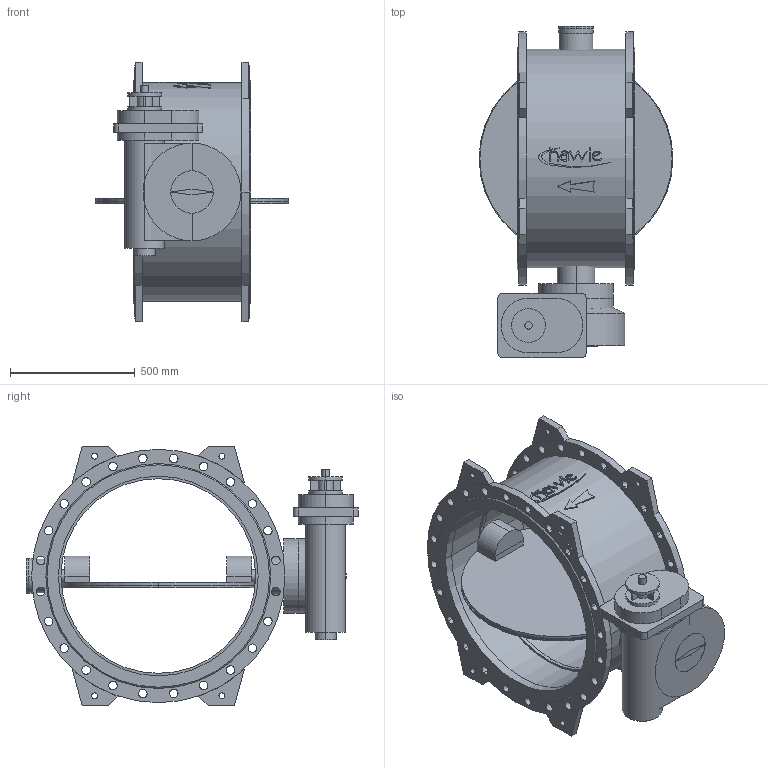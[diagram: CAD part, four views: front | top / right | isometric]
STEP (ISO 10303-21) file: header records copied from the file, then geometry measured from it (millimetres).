
FILE_DESCRIPTION(('STEP AP214'),'1');
FILE_NAME('S:/EK/USER/CAT6/3DHomepage_27-04-2012/neu_08-01-2013/9881K/9881K_PN10_DN800.STP','2013-03-11T15:17:41',(' '),(' '),'Spatial InterOp 3D',' ',' ');
FILE_SCHEMA(('automotive_design'));
Length unit declared in the file: millimetre
Products named in the file (52): 3D-Objekt
Bounding box: 776 x 1330 x 1040 mm (x, y, z)
Volume: 129428860.7 mm3; surface area: 8229744.3 mm2
Topology: 52 solids, 52 shells, 449 faces, 1026 edges, 684 vertices
Faces by surface type: cylinder 227, plane 214, cone 8
Entity records: 17868 total; most frequent: DIRECTION 2498, CARTESIAN_POINT 2211, ORIENTED_EDGE 2052, EDGE_CURVE 1026, AXIS2_PLACEMENT_3D 971, VERTEX_POINT 684, EDGE_LOOP 576, LINE 556
